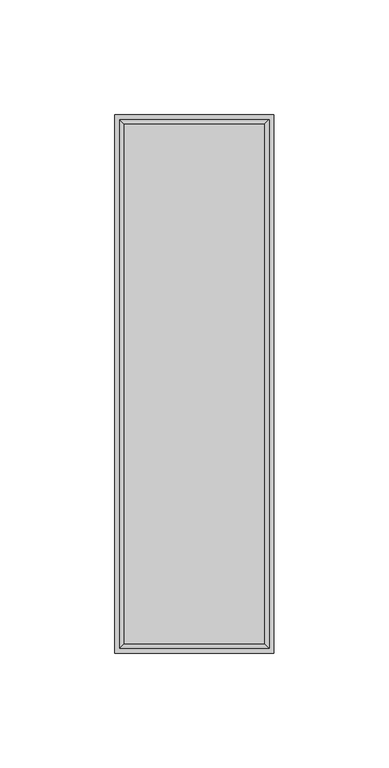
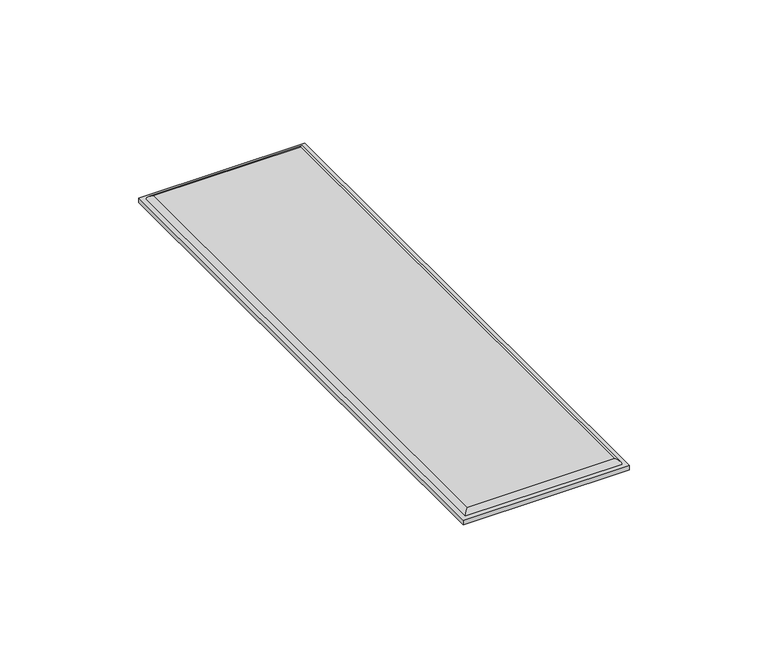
"""IFC4 building model written with IfcOpenShell, lengths in millimetres: proxy geometry, PBSHOP - HORIZONTES JAIPUR 6,5X23 : JAIPUR CHANDRA."""

import ifcopenshell
import ifcopenshell.guid

model = None  # the IFC model being written
_history = None  # IfcOwnerHistory: only IFC2X3 demands one
_inside = {}  # id of a spatial element -> (the spatial element, [elements in it])
_under = {}  # id of a project, library or spatial element -> (it, [spatial elements below it])
_declared = {}  # id of a project -> (the project, [libraries it declares])
_typed = {}  # id of a type object -> (the type object, [elements of that type])
_made_of = {}  # id of a material, layer set ... -> (it, [elements and type objects made of it])


def new_model(schema):
    """Start an empty IFC model of exactly this schema.

    Asked for "IFC4X3", IfcOpenShell would pick the latest addendum, in which some entities
    have other attributes; the version numbers below select the first issue.
    IFC2X3 requires an IfcOwnerHistory on every rooted entity: one is made here for all.
    """
    global model, _history
    if schema == "IFC4X3":
        model = ifcopenshell.file(schema_version=(4, 3, 0, 0))
    else:
        model = ifcopenshell.file(schema=schema)
    _inside.clear()
    _under.clear()
    _declared.clear()
    _typed.clear()
    _made_of.clear()
    _history = None
    if model.schema == "IFC2X3":
        org = make("IfcOrganization", Name="unknown")
        user = make(
            "IfcPersonAndOrganization",
            ThePerson=make("IfcPerson", FamilyName="unknown"),
            TheOrganization=org,
        )
        app = make(
            "IfcApplication",
            ApplicationDeveloper=org,
            Version="unknown",
            ApplicationFullName="unknown",
            ApplicationIdentifier="unknown",
        )
        _history = make(
            "IfcOwnerHistory",
            OwningUser=user,
            OwningApplication=app,
            ChangeAction="ADDED",
            CreationDate=0,
        )
    return model


def make(cls, **values):
    """One entity of the class cls with the attributes given. An attribute that is None is left unset."""
    return model.create_entity(
        cls, **{name: value for name, value in values.items() if value is not None}
    )


def rooted(cls, **values):
    """An entity with a GlobalId (a new one), such as an element, a storey or a relation."""
    return make(cls, GlobalId=ifcopenshell.guid.new(), OwnerHistory=_history, **values)


def si_unit(unit_type, name, prefix=None):
    """IfcSIUnit, for example si_unit("LENGTHUNIT", "METRE", prefix="MILLI")."""
    return make("IfcSIUnit", UnitType=unit_type, Prefix=prefix, Name=name)


def assignment(units):
    """IfcUnitAssignment: the units of a project."""
    return None if units is None else make("IfcUnitAssignment", Units=units)


def point(xyz):
    """IfcCartesianPoint."""
    return None if xyz is None else make("IfcCartesianPoint", Coordinates=xyz)


def direction(xyz):
    """IfcDirection."""
    return None if xyz is None else make("IfcDirection", DirectionRatios=xyz)


def frame(location, z_axis=None, x_axis=None):
    """IfcAxis2Placement3D, a coordinate frame: its origin and axes. An axis left out is left unset."""
    return make(
        "IfcAxis2Placement3D",
        Location=point(location),
        Axis=direction(z_axis),
        RefDirection=direction(x_axis),
    )


def origin():
    """The frame at (0, 0, 0) with its axes left unset."""
    return frame((0.0, 0.0, 0.0))


def place(relative_to, where):
    """IfcLocalPlacement: puts the frame where relative to a parent placement (None: the world)."""
    return make(
        "IfcLocalPlacement", PlacementRelTo=relative_to, RelativePlacement=where
    )


def context(
    kind, dimensions, precision=None, world=None, true_north=None, identifier=None
):
    """IfcGeometricRepresentationContext, for example the 3D "Model" context."""
    return make(
        "IfcGeometricRepresentationContext",
        ContextIdentifier=identifier,
        ContextType=kind,
        CoordinateSpaceDimension=dimensions,
        Precision=precision,
        WorldCoordinateSystem=world,
        TrueNorth=true_north,
    )


def project(units=None, contexts=None):
    """IfcProject with its units and contexts."""
    return rooted(
        "IfcProject",
        Name="project",
        RepresentationContexts=contexts,
        UnitsInContext=assignment(units),
    )


def spatial(cls, under=None, at=None, **own):
    """A site, building, storey or space (cls), placed at a placement, below another one or the project."""
    s = rooted(cls, ObjectPlacement=at, **own)
    if under is not None:
        _under.setdefault(under.id(), (under, []))[1].append(s)
    return s


def ellipse_curve(where, semi_axis1, semi_axis2):
    """IfcEllipse in the frame where."""
    return make(
        "IfcEllipse", Position=where, SemiAxis1=semi_axis1, SemiAxis2=semi_axis2
    )


def shape(context_of_items, identifier, shape_type, items):
    """IfcShapeRepresentation: the items that make up one representation, for example the "Body"."""
    return make(
        "IfcShapeRepresentation",
        ContextOfItems=context_of_items,
        RepresentationIdentifier=identifier,
        RepresentationType=shape_type,
        Items=items,
    )


def source(mapping_origin, context_of_items, identifier, shape_type, items):
    """IfcRepresentationMap: a shape defined once, which mapped items show again and again."""
    return make(
        "IfcRepresentationMap",
        MappingOrigin=mapping_origin,
        MappedRepresentation=shape(context_of_items, identifier, shape_type, items),
    )


def transform(
    local_origin,
    x_axis=None,
    y_axis=None,
    z_axis=None,
    scale=None,
    scale2=None,
    scale3=None,
    uniform=True,
):
    """IfcCartesianTransformationOperator3D, or its non-uniform kind. x_axis, y_axis, z_axis: its Axis1, 2, 3."""
    if uniform:
        return make(
            "IfcCartesianTransformationOperator3D",
            Axis1=direction(x_axis),
            Axis2=direction(y_axis),
            LocalOrigin=point(local_origin),
            Scale=scale,
            Axis3=direction(z_axis),
        )
    return make(
        "IfcCartesianTransformationOperator3DnonUniform",
        Axis1=direction(x_axis),
        Axis2=direction(y_axis),
        LocalOrigin=point(local_origin),
        Scale=scale,
        Axis3=direction(z_axis),
        Scale2=scale2,
        Scale3=scale3,
    )


def mapped(mapping_source, mapping_target):
    """IfcMappedItem: shows the shape of a source again, moved by a transform."""
    return make(
        "IfcMappedItem", MappingSource=mapping_source, MappingTarget=mapping_target
    )


def made_of(thing, what):
    """Note that an element or type object is made of a material, layer set ...; save() writes the relation."""
    if what is not None:
        _made_of.setdefault(what.id(), (what, []))[1].append(thing)
    return thing


def element(
    cls,
    number,
    at=None,
    inside=None,
    cuts=None,
    type_object=None,
    material=None,
    context=None,
    identifier="Body",
    shape_type=None,
    held_by="IfcProductDefinitionShape",
    body=None,
    shapes=None,
    **own,
):
    """One element of the class cls, such as IfcWall. Its Tag is "e" and its number.

    at: its placement. inside: the storey or other place that contains it. cuts: it is an
    opening in that element (IfcRelVoidsElement). A single representation is given by context,
    identifier, shape_type and body (its items); several are given by shapes. held_by: the class
    of the entity that holds the representations. save() writes the other relations.
    """
    e = rooted(cls, Tag="e%d" % number, ObjectPlacement=at, **own)
    if body is not None:
        shapes = [shape(context, identifier, shape_type, body)]
    if shapes is not None:
        e.Representation = make(held_by, Representations=shapes)
    if inside is not None:
        _inside.setdefault(inside.id(), (inside, []))[1].append(e)
    if cuts is not None:
        rooted(
            "IfcRelVoidsElement", RelatingBuildingElement=cuts, RelatedOpeningElement=e
        )
    if type_object is not None:
        _typed.setdefault(type_object.id(), (type_object, []))[1].append(e)
    return made_of(e, material)


def aggregate(whole, parts):
    """IfcRelAggregates: a whole, such as a stair, and the parts it consists of."""
    return rooted("IfcRelAggregates", RelatingObject=whole, RelatedObjects=parts)


def save(model, path):
    """Write the relations noted so far, then the file.

    IfcRelAggregates (storeys below a building ...), IfcRelContainedInSpatialStructure (elements
    in a storey), IfcRelDefinesByType, IfcRelAssociatesMaterial and IfcRelDeclares: one each for
    every whole, place, type object, material and project.
    """
    for whole, parts in _under.values():
        aggregate(whole, parts)
    for where, things in _inside.values():
        rooted(
            "IfcRelContainedInSpatialStructure",
            RelatedElements=things,
            RelatingStructure=where,
        )
    for kind, things in _typed.values():
        rooted("IfcRelDefinesByType", RelatedObjects=things, RelatingType=kind)
    for what, things in _made_of.values():
        rooted("IfcRelAssociatesMaterial", RelatedObjects=things, RelatingMaterial=what)
    for by, libraries in _declared.values():
        rooted("IfcRelDeclares", RelatingContext=by, RelatedDefinitions=libraries)
    model.write(path)


def plane_surface(at):
    """IfcPlane: the flat surface through the origin of the frame at, square to its z axis."""
    return make("IfcPlane", Position=at)


def cylinder_surface(at, radius):
    """IfcCylindricalSurface: all points at the distance radius from the z axis of the frame at."""
    return make("IfcCylindricalSurface", Position=at, Radius=radius)


def advanced_brep(points, edges, surfaces, faces):
    """IfcAdvancedBrep: a solid bounded by faces that lie on surfaces and meet in shared edges.

    An edge is (start, end): straight between two places in points (the first is 0);
    or (start, end, curve); or (start, end, curve, False) where it runs against its curve.
    A face is (place in surfaces, loops), or (place, loops, False) where it looks against
    its surface's normal. A loop lists edges by number (the first is 1), with a minus sign
    where the edge is run from its end to its start. The first loop is the outer one.
    """
    corners = [point(p) for p in points]
    vertices = [make("IfcVertexPoint", VertexGeometry=c) for c in corners]
    made = []
    for start, end, *more in edges:
        made.append(
            make(
                "IfcEdgeCurve",
                EdgeStart=vertices[start],
                EdgeEnd=vertices[end],
                EdgeGeometry=more[0] if more else make("IfcPolyline", Points=[corners[start], corners[end]]),
                SameSense=more[1] if len(more) > 1 else True,
            )
        )
    hull = []
    for where, loops, *sense in faces:
        bounds = []
        for j, loop in enumerate(loops):
            ring = [make("IfcOrientedEdge", EdgeElement=made[abs(k) - 1], Orientation=k > 0) for k in loop]
            bounds.append(
                make(
                    "IfcFaceOuterBound" if j == 0 else "IfcFaceBound",
                    Bound=make("IfcEdgeLoop", EdgeList=ring),
                    Orientation=True,
                )
            )
        hull.append(make("IfcAdvancedFace", Bounds=bounds, FaceSurface=surfaces[where], SameSense=sense[0] if sense else True))
    return make("IfcAdvancedBrep", Outer=make("IfcClosedShell", CfsFaces=hull))


def generic_models_ab0f2c30(model_context):
    return source(origin(), model_context, "Body", "AdvancedBrep", [
        advanced_brep(
        [(-30.5, -113.0, 4.0), (30.5, -113.0, 4.0), (30.5, 113.0, 4.0), (-30.5, 113.0, 4.0), (34.5, 117.0, 0.0), (34.5, -117.0, 0.0), (-34.5, -117.0, 0.0), (-34.5, 117.0, 0.0), (32.5, -115.0, 2.0), (-32.5, -115.0, 2.0), (32.5, 115.0, 2.0), (-32.5, 115.0, 2.0), (34.5, 117.0, 2.0), (-34.5, 117.0, 2.0), (-34.5, -117.0, 2.0), (34.5, -117.0, 2.0)],
        [
            (0, 1),
            (1, 2),
            (2, 3),
            (3, 0),
            (4, 5),
            (5, 6),
            (6, 7),
            (7, 4),
            (8, 1, ellipse_curve(frame((30.5, -113.0, 2.0), z_axis=(-0.7071067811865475, -0.7071067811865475, 0.0), x_axis=(0.7071067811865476, -0.7071067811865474, 0.0)), 2.8284271, 2.0)),
            (0, 9, ellipse_curve(frame((-30.5, -113.0, 2.0), z_axis=(0.7071067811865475, -0.7071067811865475, 0.0), x_axis=(0.7071067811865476, 0.7071067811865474, 0.0)), 2.8284271, 2.0)),
            (9, 8),
            (8, 10),
            (10, 2, ellipse_curve(frame((30.5, 113.0, 2.0), z_axis=(0.7071067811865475, -0.7071067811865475, 0.0), x_axis=(0.7071067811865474, 0.7071067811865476, 0.0)), 2.8284271, 2.0)),
            (10, 11),
            (11, 3, ellipse_curve(frame((-30.5, 113.0, 2.0), z_axis=(0.7071067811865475, 0.7071067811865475, 0.0), x_axis=(-0.7071067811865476, 0.7071067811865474, 0.0)), 2.8284271, 2.0)),
            (11, 9),
            (12, 13),
            (13, 14),
            (14, 15),
            (15, 12),
            (12, 4),
            (7, 13),
            (6, 14),
            (5, 15),
        ],
        [
            plane_surface(frame((-32.5, -115.0, 4.0), z_axis=(0.0, 0.0, 1.0), x_axis=(1.0, 0.0, 0.0))),
            plane_surface(frame((-32.5, -115.0, 0.0), z_axis=(0.0, 0.0, -1.0), x_axis=(-1.0, 0.0, 0.0))),
            cylinder_surface(frame((-32.5, -113.0, 2.0), z_axis=(1.0, 0.0, 0.0), x_axis=(0.0, 1.0, 0.0)), 2.0),
            cylinder_surface(frame((30.5, -115.0, 2.0), z_axis=(0.0, 1.0, 0.0), x_axis=(-1.0, 0.0, 0.0)), 2.0),
            cylinder_surface(frame((32.5, 113.0, 2.0), z_axis=(-1.0, 0.0, 0.0), x_axis=(0.0, -1.0, 0.0)), 2.0),
            cylinder_surface(frame((-30.5, 115.0, 2.0), z_axis=(0.0, -1.0, 0.0), x_axis=(1.0, 0.0, 0.0)), 2.0),
            plane_surface(frame((-34.5, 117.0, 2.0), z_axis=(0.0, 0.0, 1.0), x_axis=(-1.0, 0.0, 0.0))),
            plane_surface(frame((34.5, 117.0, 2.0), z_axis=(0.0, 1.0, 0.0), x_axis=(0.0, 0.0, -1.0))),
            plane_surface(frame((-34.5, 117.0, 2.0), z_axis=(-1.0, 0.0, 0.0), x_axis=(0.0, 0.0, -1.0))),
            plane_surface(frame((-34.5, -117.0, 2.0), z_axis=(0.0, -1.0, 0.0), x_axis=(0.0, 0.0, -1.0))),
            plane_surface(frame((34.5, -117.0, 2.0), z_axis=(1.0, 0.0, 0.0), x_axis=(0.0, 0.0, -1.0))),
        ],
        [
            (0, [[1, 2, 3, 4]]),
            (1, [[5, 6, 7, 8]]),
            (2, [[9, -1, 10, 11]]),
            (3, [[-9, 12, 13, -2]]),
            (4, [[-13, 14, 15, -3]]),
            (5, [[-10, -4, -15, 16]]),
            (6, [[17, 18, 19, 20], [-11, -16, -14, -12]]),
            (7, [[-17, 21, -8, 22]]),
            (8, [[-18, -22, -7, 23]]),
            (9, [[-19, -23, -6, 24]]),
            (10, [[-20, -24, -5, -21]]),
        ],
    ),
    ])


if __name__ == "__main__":
    model = new_model("IFC4")
    model_context = context("Model", 3, world=origin())
    ifc_project = project(units=[si_unit("LENGTHUNIT", "METRE", prefix="MILLI")], contexts=[model_context])
    site = spatial("IfcSite", under=ifc_project)
    building = spatial("IfcBuilding", under=site)
    placement = place(None, origin())
    generic_models_shape = generic_models_ab0f2c30(model_context)
    element("IfcBuildingElementProxy", 1, Name="PBSHOP - HORIZONTES JAIPUR 6,5X23 : JAIPUR CHANDRA", ObjectType="PBSHOP - HORIZONTES JAIPUR 6,5X23 : JAIPUR CHANDRA", at=placement, inside=building, context=model_context, shape_type="MappedRepresentation", body=[
        mapped(generic_models_shape, transform((0.0, 0.0, 0.0), x_axis=(1.0, 0.0, 0.0), y_axis=(0.0, 1.0, 0.0), z_axis=(0.0, 0.0, 1.0))),
    ])
    save(model, "model.ifc")
